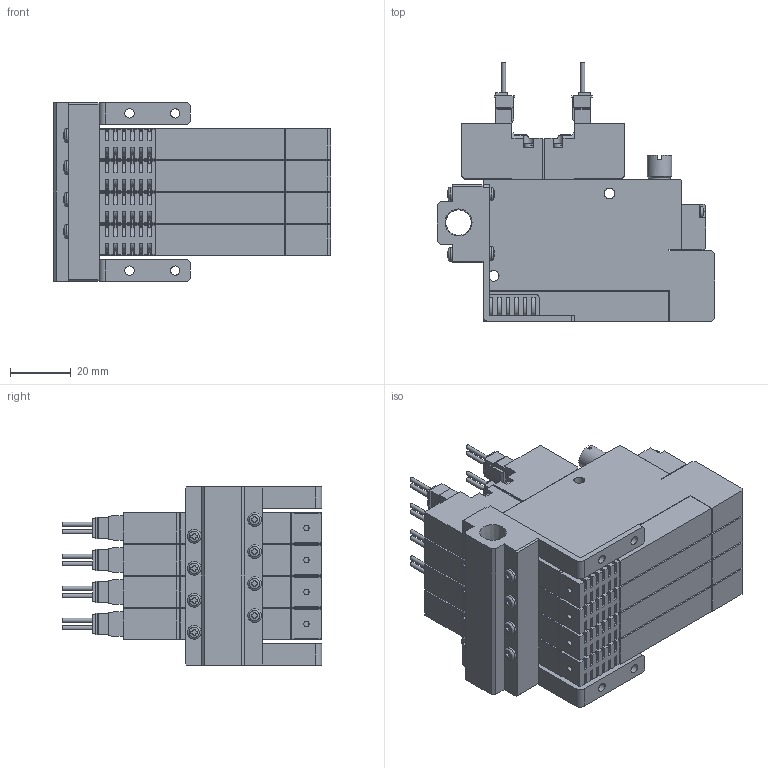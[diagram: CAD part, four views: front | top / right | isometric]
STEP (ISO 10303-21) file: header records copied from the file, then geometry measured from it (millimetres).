
FILE_DESCRIPTION(('STEP AP203'),'1');
FILE_NAME('5SS404_3D.stp','2024-09-04T13:56:03',(' '),(' '),'Spatial InterOp 3D',' ',' ');
FILE_SCHEMA(('CONFIG_CONTROL_DESIGN'));
Length unit declared in the file: millimetre
Products named in the file (5): BSC1M※※ZZ※5SS404; Solenoid valve S; Pressure Sensor ZZ; Unit-S; BaseMS40R
Assembly tree (13 placements, depth 2):
  BSC1M※※ZZ※5SS404
    Solenoid valve S  x4
    Pressure Sensor ZZ  x4
    Unit-S  x4
    BaseMS40R
Bounding box: 91 x 85.05 x 58.5 mm (x, y, z)
Volume: 179940.6 mm3; surface area: 75255.7 mm2
Topology: 13 solids, 13 shells, 1835 faces, 5027 edges, 3334 vertices
Faces by surface type: plane 1346, cylinder 427, cone 22, sphere 20, torus 20
Full cylindrical faces by diameter (mm): 1.4 x16, 1.8 x4, 2.5 x8, 3 x20, 3.5 x24, 4 x4, 4.134 x8, 4.5 x12, 5.5 x4, 7 x4, 7.7 x4, 8 x4, 8.422 x1
Entity records: 19952 total; most frequent: CARTESIAN_POINT 4335, ORIENTED_EDGE 3114, DIRECTION 3110, EDGE_CURVE 1557, LINE 1110, VECTOR 1110, VERTEX_POINT 1077, AXIS2_PLACEMENT_3D 1000
